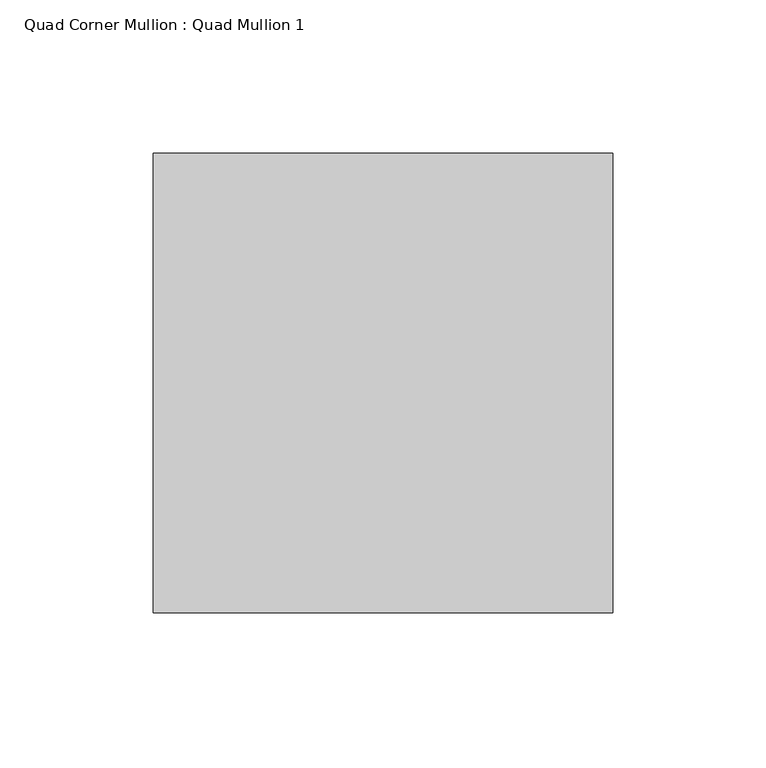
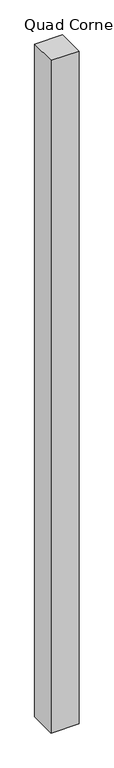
"""IFC4 building model written with IfcOpenShell, lengths in millimetres: member geometry, Quad Corner Mullion : Quad Mullion 1."""

from ifc_helpers import new_model, si_unit, frame, origin, place, context, project, spatial, polyline, outline, extrude, source, transform, mapped, element, save


def quad_corner_mullion_quad_mullion_1_bceed214(model_context):
    return source(origin(), model_context, "Body", "SweptSolid", [
        extrude(outline(polyline([(75.0, 75.0), (75.0, -75.0), (-75.0, -75.0), (-75.0, 75.0), (75.0, 75.0)])), frame((0.0, 0.0, -3800.0), z_axis=(0.0, 0.0, 1.0), x_axis=(1.0, 0.0, 0.0)), (0.0, 0.0, 1.0), 3800.0),
    ])


if __name__ == "__main__":
    model = new_model("IFC4")
    model_context = context("Model", 3, world=origin())
    ifc_project = project(units=[si_unit("LENGTHUNIT", "METRE", prefix="MILLI")], contexts=[model_context])
    site = spatial("IfcSite", under=ifc_project)
    building = spatial("IfcBuilding", under=site)
    placement = place(None, origin())
    quad_corner_mullion_quad_mullion_1_shape = quad_corner_mullion_quad_mullion_1_bceed214(model_context)
    element("IfcMember", 1, ObjectType="Quad Corner Mullion : Quad Mullion 1", at=placement, inside=building, context=model_context, shape_type="MappedRepresentation", body=[
        mapped(quad_corner_mullion_quad_mullion_1_shape, transform((0.0, 0.0, 0.0), x_axis=(1.0, 0.0, 0.0), y_axis=(0.0, 1.0, 0.0), z_axis=(0.0, 0.0, 1.0))),
    ])
    save(model, "model.ifc")
